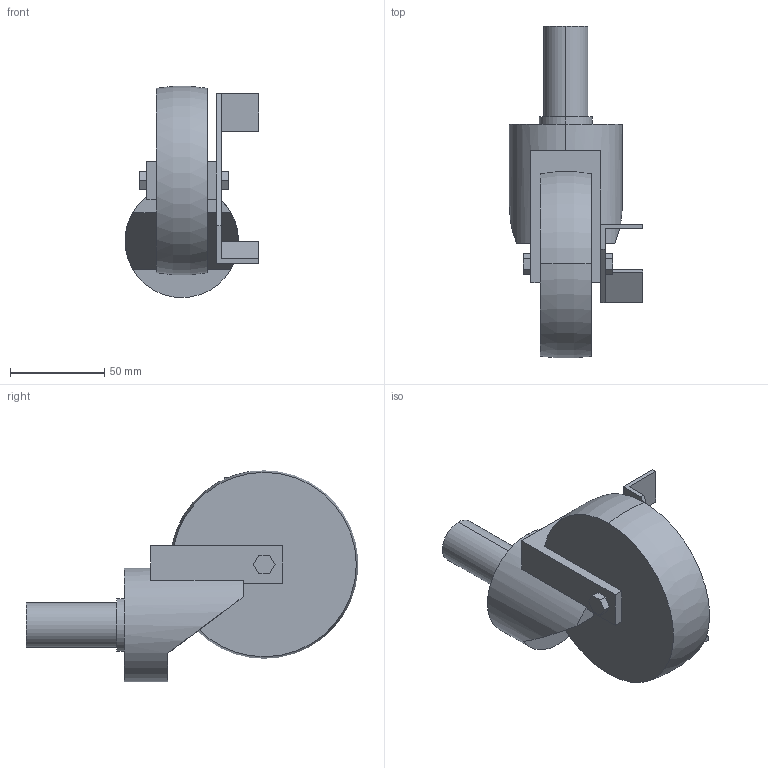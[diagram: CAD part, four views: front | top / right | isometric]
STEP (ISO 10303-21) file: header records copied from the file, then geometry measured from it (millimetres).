
FILE_DESCRIPTION (( 'STEP AP214' ), '1' );
FILE_NAME ('SGR100S CTP.step', '2024-02-15T04:35:42', ( 'catia' ), ( 'HP Inc.' ), 'SwSTEP 2.0', 'SolidWorks 2021', '' );
FILE_SCHEMA (( 'AUTOMOTIVE_DESIGN' ));
Length unit declared in the file: millimetre
Products named in the file (1): SGR100S CTP
Bounding box: 70.8 x 175.69 x 111.86 mm (x, y, z)
Volume: 352802.2 mm3; surface area: 43922.7 mm2
Topology: 1 solids, 1 shells, 56 faces, 144 edges, 94 vertices
Faces by surface type: plane 47, cylinder 6, torus 3
Entity records: 1730 total; most frequent: CARTESIAN_POINT 317, ORIENTED_EDGE 288, DIRECTION 278, EDGE_CURVE 144, LINE 116, VECTOR 116, VERTEX_POINT 94, AXIS2_PLACEMENT_3D 81
